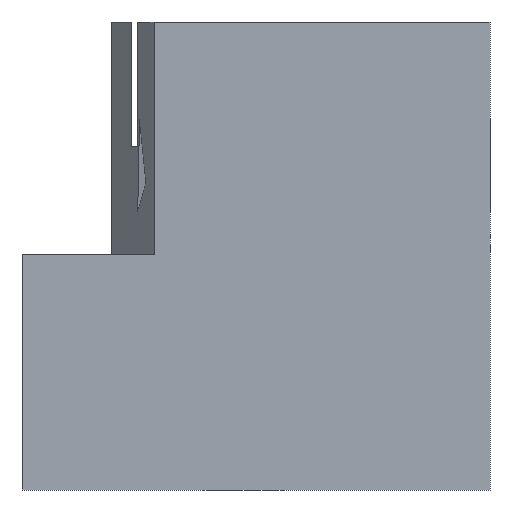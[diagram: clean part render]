
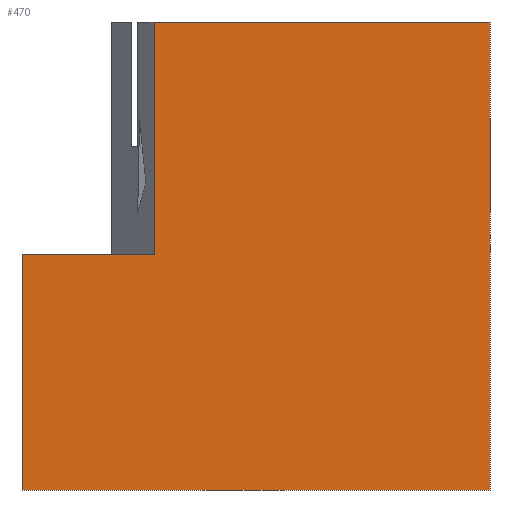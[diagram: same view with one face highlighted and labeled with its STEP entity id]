
A CAD part, front view. The second image highlights one B-rep face of the part: STEP entity #470.
In plain terms, the highlighted planar face has unit normal (0, -1, 0).
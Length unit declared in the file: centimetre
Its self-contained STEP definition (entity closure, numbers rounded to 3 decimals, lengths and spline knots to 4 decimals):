
#18 = CARTESIAN_POINT ( 'NONE',  ( 0., 0., 1000. ) ) ;
#23 = VECTOR ( 'NONE', #952, 100. ) ;
#63 = VERTEX_POINT ( 'NONE', #395 ) ;
#67 = EDGE_CURVE ( 'NONE', #373, #63, #472, .T. ) ;
#88 = VECTOR ( 'NONE', #921, 100. ) ;
#110 = DIRECTION ( 'NONE',  ( 0., 0., -1. ) ) ;
#118 = VECTOR ( 'NONE', #122, 100. ) ;
#122 = DIRECTION ( 'NONE',  ( 0., 0., -1. ) ) ;
#134 = ORIENTED_EDGE ( 'NONE', *, *, #679, .T. ) ;
#163 = EDGE_CURVE ( 'NONE', #304, #452, #789, .T. ) ;
#206 = ORIENTED_EDGE ( 'NONE', *, *, #736, .T. ) ;
#220 = PLANE ( 'NONE',  #570 ) ;
#230 = CARTESIAN_POINT ( 'NONE',  ( 0., 0., 0. ) ) ;
#304 = VERTEX_POINT ( 'NONE', #893 ) ;
#312 = CARTESIAN_POINT ( 'NONE',  ( 1000., 0., 0. ) ) ;
#328 = VECTOR ( 'NONE', #970, 100. ) ;
#344 = CARTESIAN_POINT ( 'NONE',  ( 1000., 0., 1000. ) ) ;
#373 = VERTEX_POINT ( 'NONE', #499 ) ;
#385 = EDGE_CURVE ( 'NONE', #63, #304, #502, .T. ) ;
#388 = DIRECTION ( 'NONE',  ( 0., 1., 0. ) ) ;
#395 = CARTESIAN_POINT ( 'NONE',  ( 282.4844, 0., 504.1655 ) ) ;
#412 = DIRECTION ( 'NONE',  ( 1., 0., 0. ) ) ;
#430 = VERTEX_POINT ( 'NONE', #230 ) ;
#446 = ORIENTED_EDGE ( 'NONE', *, *, #163, .F. ) ;
#451 = ORIENTED_EDGE ( 'NONE', *, *, #385, .F. ) ;
#452 = VERTEX_POINT ( 'NONE', #763 ) ;
#457 = VECTOR ( 'NONE', #412, 100. ) ;
#462 = DIRECTION ( 'NONE',  ( 0., 0., 1. ) ) ;
#465 = EDGE_LOOP ( 'NONE', ( #446, #451, #883, #134, #206, #587 ) ) ;
#470 = ADVANCED_FACE ( 'NONE', ( #697 ), #220, .F. ) ;
#472 = LINE ( 'NONE', #699, #88 ) ;
#499 = CARTESIAN_POINT ( 'NONE',  ( 0., 0., 504.1655 ) ) ;
#502 = LINE ( 'NONE', #672, #328 ) ;
#511 = VERTEX_POINT ( 'NONE', #312 ) ;
#570 = AXIS2_PLACEMENT_3D ( 'NONE', #683, #388, #462 ) ;
#579 = LINE ( 'NONE', #344, #604 ) ;
#587 = ORIENTED_EDGE ( 'NONE', *, *, #774, .F. ) ;
#604 = VECTOR ( 'NONE', #110, 100. ) ;
#672 = CARTESIAN_POINT ( 'NONE',  ( 282.4844, 0., 504.1655 ) ) ;
#679 = EDGE_CURVE ( 'NONE', #373, #430, #740, .T. ) ;
#683 = CARTESIAN_POINT ( 'NONE',  ( 0., 0., 1000. ) ) ;
#697 = FACE_OUTER_BOUND ( 'NONE', #465, .T. ) ;
#699 = CARTESIAN_POINT ( 'NONE',  ( 282.4844, 0., 504.1655 ) ) ;
#729 = LINE ( 'NONE', #735, #23 ) ;
#735 = CARTESIAN_POINT ( 'NONE',  ( 0., 0., 0. ) ) ;
#736 = EDGE_CURVE ( 'NONE', #430, #511, #729, .T. ) ;
#740 = LINE ( 'NONE', #943, #118 ) ;
#763 = CARTESIAN_POINT ( 'NONE',  ( 1000., 0., 1000. ) ) ;
#774 = EDGE_CURVE ( 'NONE', #452, #511, #579, .T. ) ;
#789 = LINE ( 'NONE', #18, #457 ) ;
#883 = ORIENTED_EDGE ( 'NONE', *, *, #67, .F. ) ;
#893 = CARTESIAN_POINT ( 'NONE',  ( 282.4844, 0., 1000. ) ) ;
#921 = DIRECTION ( 'NONE',  ( 1., 0., 0. ) ) ;
#943 = CARTESIAN_POINT ( 'NONE',  ( 0., 0., 1000. ) ) ;
#952 = DIRECTION ( 'NONE',  ( 1., 0., 0. ) ) ;
#970 = DIRECTION ( 'NONE',  ( 0., 0., 1. ) ) ;
